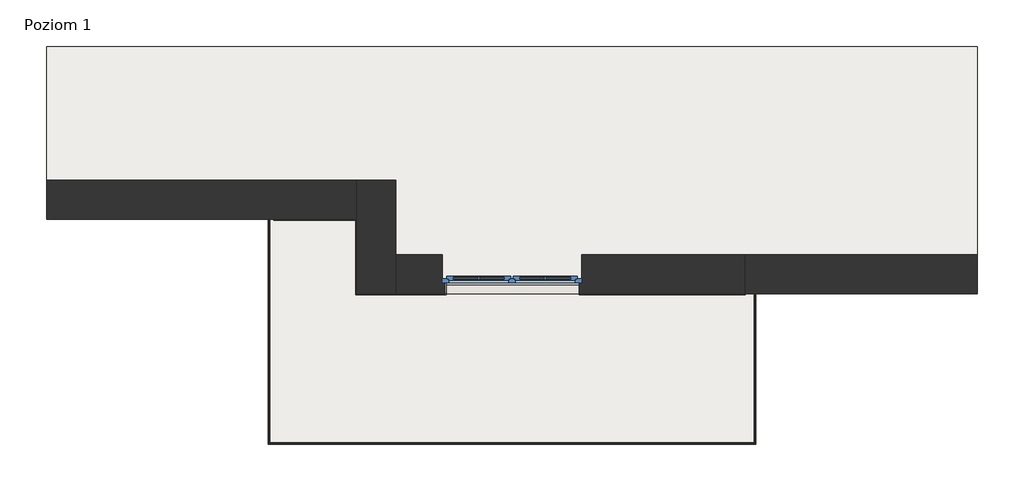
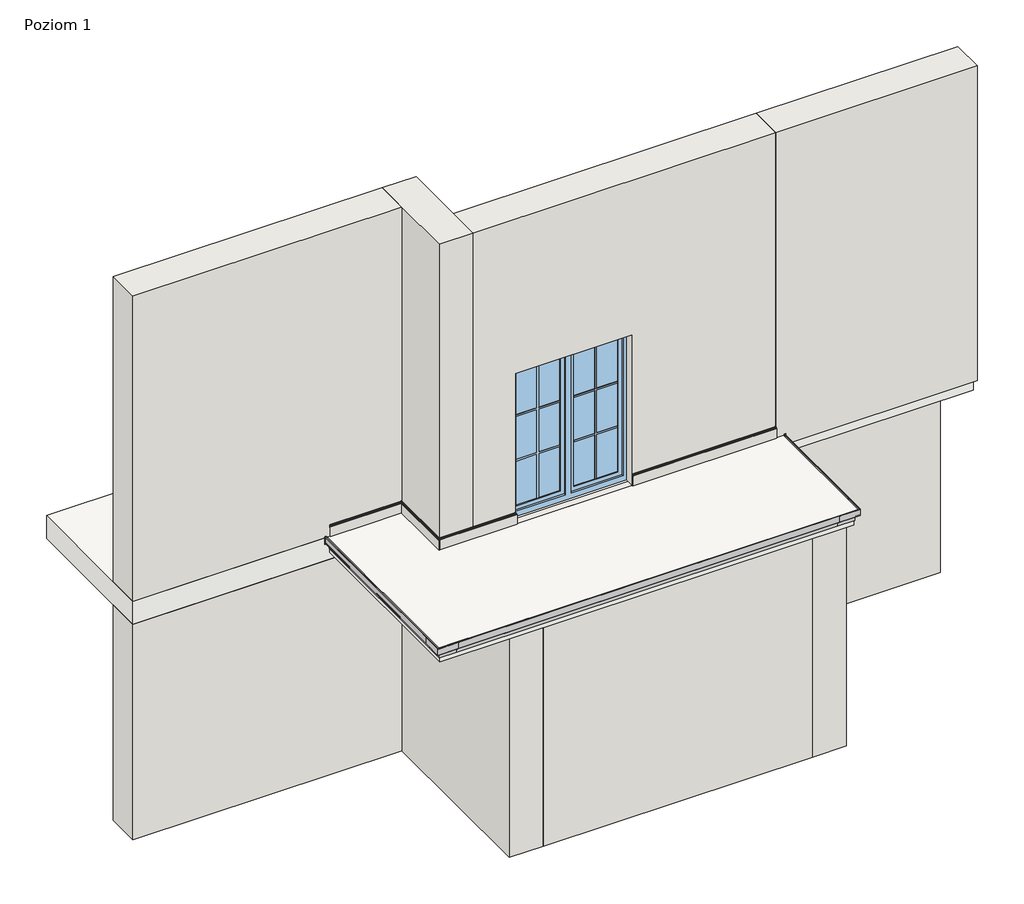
# One storey, part 1 of 4: 15 walls, 9 proxies, 3 slabs, 1 window.
"""IFC4 building model written with IfcOpenShell, lengths in millimetres."""

from ifc_helpers import new_model, si_unit, frame, origin, origin_with_axes, place, context, project, spatial, polyline, outline, extrude, faceted_brep, transform, mapped, element, save
from components import generic_models_5630e756, generic_models_7e4038cf, c_led_c_led_2365758f, c_led_c_led_99613e41, c_led_c_led_c4f84eb2, c_led_c_led_8937523a, w63_5dd79a54, w63_d7f169f1, w63_e9272406, window_150x200_12b14935

model = new_model("IFC4")

# Units and contexts
model_context = context("Model", 3, world=origin())
ifc_project = project(units=[si_unit("LENGTHUNIT", "METRE", prefix="MILLI")], contexts=[model_context])

# Site, building, storey
site = spatial("IfcSite", under=ifc_project)
building = spatial("IfcBuilding", under=site)
storey = spatial("IfcBuildingStorey", under=building, Name="Poziom 1", Elevation=0.0)

# Proxies
placement = place(None, origin())
generic_models_shape = generic_models_5630e756(model_context)
element("IfcBuildingElementProxy", 1, Name="Odbojniki - OPW63 : Odbojniki - OPW63", ObjectType="Odbojniki - OPW63 : Odbojniki - OPW63", at=placement, inside=storey, context=model_context, shape_type="MappedRepresentation", body=[
    mapped(generic_models_shape, transform((-100537.9865026, 45260.2483344, -55.0), x_axis=(0.0, -1.0, 0.0), y_axis=(1.0, 0.0, 0.0), z_axis=(0.0, 0.0, 1.0))),
])
generic_models_2_shape = generic_models_7e4038cf(model_context)
element("IfcBuildingElementProxy", 2, Name="Odbojniki - OPW63 : Odbojniki - OPW63", ObjectType="Odbojniki - OPW63 : Odbojniki - OPW63", at=placement, inside=storey, context=model_context, shape_type="MappedRepresentation", body=[
    mapped(generic_models_2_shape, transform((-105770.4865026, 46060.2483344, -55.0), x_axis=(0.0, -1.0, 0.0), y_axis=(1.0, 0.0, 0.0), z_axis=(0.0, 0.0, 1.0))),
])
c_led_c_led_shape = c_led_c_led_2365758f(model_context)
element("IfcBuildingElementProxy", 3, Name="C LED : C LED", ObjectType="C LED : C LED", at=placement, inside=storey, context=model_context, shape_type="MappedRepresentation", body=[
    mapped(c_led_c_led_shape, transform((-105717.2365026, 46063.2483344, 150.0), x_axis=(1.0, 0.0, 0.0), y_axis=(0.0, 0.0, 1.0), z_axis=(0.0, -1.0, 0.0))),
])
c_led_c_led_2_shape = c_led_c_led_99613e41(model_context)
element("IfcBuildingElementProxy", 4, Name="C LED : C LED", ObjectType="C LED : C LED", at=placement, inside=storey, context=model_context, shape_type="MappedRepresentation", body=[
    mapped(c_led_c_led_2_shape, transform((-104824.2365026, 46063.2483344, 150.0), x_axis=(0.0, -1.0, 0.0), y_axis=(0.0, 0.0, 1.0), z_axis=(-1.0, 0.0, 0.0))),
])
c_led_c_led_3_shape = c_led_c_led_c4f84eb2(model_context)
element("IfcBuildingElementProxy", 5, Name="C LED : C LED", ObjectType="C LED : C LED", at=placement, inside=storey, context=model_context, shape_type="MappedRepresentation", body=[
    mapped(c_led_c_led_3_shape, transform((-104824.2365018, 45263.2483344, 149.9999994), x_axis=(1.0, 0.0, 0.0), y_axis=(0.0, 0.0, 1.0), z_axis=(0.0, -1.0, 0.0))),
])
c_led_c_led_4_shape = c_led_c_led_8937523a(model_context)
element("IfcBuildingElementProxy", 6, Name="C LED : C LED", ObjectType="C LED : C LED", at=placement, inside=storey, context=model_context, shape_type="MappedRepresentation", body=[
    mapped(c_led_c_led_4_shape, transform((-102434.2365026, 45263.2483344, 150.0), x_axis=(1.0, 0.0, 0.0), y_axis=(0.0, 0.0, 1.0), z_axis=(0.0, -1.0, 0.0))),
])
w63_shape = w63_5dd79a54(model_context)
element("IfcBuildingElementProxy", 7, Name="W63 Profil okapowy prosty : W63", ObjectType="W63 Profil okapowy prosty : W63", at=placement, inside=storey, context=model_context, shape_type="MappedRepresentation", body=[
    mapped(w63_shape, transform((-105717.2365026, 43700.2483344, -55.0), x_axis=(1.0, 0.0, 0.0), y_axis=(0.0, 1.0, 0.0), z_axis=(0.0, 0.0, 1.0))),
])
w63_2_shape = w63_d7f169f1(model_context)
element("IfcBuildingElementProxy", 8, Name="W63 Profil okapowy prosty : W63", ObjectType="W63 Profil okapowy prosty : W63", at=placement, inside=storey, context=model_context, shape_type="MappedRepresentation", body=[
    mapped(w63_2_shape, transform((-105717.2365026, 46063.2483344, -55.0), x_axis=(0.0, -1.0, 0.0), y_axis=(1.0, 0.0, 0.0), z_axis=(0.0, 0.0, 1.0))),
])
w63_3_shape = w63_e9272406(model_context)
element("IfcBuildingElementProxy", 9, Name="W63 Profil okapowy prosty : W63", ObjectType="W63 Profil okapowy prosty : W63", at=placement, inside=storey, context=model_context, shape_type="MappedRepresentation", body=[
    mapped(w63_3_shape, transform((-100591.2365026, 45263.2483344, -55.0), x_axis=(0.0, -1.0, 0.0), y_axis=(1.0, 0.0, 0.0), z_axis=(0.0, 0.0, 1.0))),
])

# Slabs
element("IfcSlab", 10, ObjectType="Taras - wykończenie - posadzka z płytek grubowarstwowych - podkładka P1 - hydroizolacja", at=placement, inside=storey, context=model_context, shape_type="SweptSolid", body=[
    extrude(outline(polyline([(-105717.2365026, 43700.2483344), (-105717.2365026, 46063.2483344), (-104824.2365026, 46063.2483344), (-104824.2365026, 45285.2483344), (-100591.2365026, 45285.2483344), (-100591.2365026, 43700.2483344), (-105717.2365026, 43700.2483344)])), frame((0.0, 0.0, -215.0), z_axis=(0.0, 0.0, 1.0), x_axis=(1.0, 0.0, 0.0)), (0.0, 0.0, 1.0), 160.0),
])
element("IfcSlab", 11, ObjectType="Taras - wykończenie - posadzka z płytek grubowarstwowych", at=placement, inside=storey, context=model_context, shape_type="SweptSolid", body=[
    extrude(outline(polyline([(-105749.4365026, 43668.0483344), (-105749.4365026, 46063.2483344), (-104824.2365026, 46063.2483344), (-104824.2365026, 45263.2483344), (-100559.0365026, 45263.2483344), (-100559.0365026, 43668.0483344), (-105749.4365026, 43668.0483344)])), frame((0.0, 0.0, -55.0), z_axis=(0.0, 0.0, 1.0), x_axis=(1.0, 0.0, 0.0)), (0.0, 0.0, 1.0), 55.0),
])
element("IfcSlab", 12, ObjectType="Strop", at=placement, inside=storey, context=model_context, shape_type="Brep", body=[
    faceted_brep([(-98154.2365026, 45352.2483344, -300.0), (-104824.2365026, 45352.2483344, -300.0), (-104824.2365026, 46063.2483344, -300.0), (-108154.2365026, 46063.2483344, -300.0), (-108154.2365026, 46483.2483344, -300.0), (-108154.2365026, 47918.2483344, -300.0), (-98154.2365026, 47918.2483344, -300.0), (-98154.2365026, 46483.2483344, -300.0), (-98154.2365026, 46063.2483344, -300.0), (-98154.2365026, 45352.2483344, 0.0), (-98154.2365026, 45683.2483344, 0.0), (-98154.2365026, 47918.2483344, 0.0), (-108154.2365026, 47918.2483344, 0.0), (-108154.2365026, 46063.2483344, 0.0), (-104824.2365026, 46063.2483344, 0.0), (-104824.2365026, 45352.2483344, 0.0), (-104404.2365026, 45352.2483344, 0.0), (-103874.2365026, 45352.2483344, 0.0), (-102434.2365026, 45352.2483344, 0.0), (-100654.2365026, 45352.2483344, 0.0), (-98154.2365026, 45352.2483344, -125.0)], [[[0, 1, 2, 3, 4, 5, 6, 7, 8]], [[9, 10, 11, 12, 13, 14, 15, 16, 17, 18, 19]], [[1, 0, 20, 9, 19, 18, 17, 16, 15]], [[5, 4, 3, 13, 12]], [[6, 5, 12, 11]], [[0, 8, 7, 6, 11, 10, 9, 20]], [[2, 1, 15, 14]], [[3, 2, 14, 13]]]),
])

# Walls
element("IfcWall", 13, ObjectType="Porotherm P+W 25 + o15 + t", at=placement, inside=storey, context=model_context, shape_type="Brep", body=[
    faceted_brep([(-108154.2365026, 46063.2483344, -3125.0), (-104824.2365026, 46063.2483344, -3125.0), (-104404.2365026, 46063.2483344, -3125.0), (-104404.2365026, 46063.2483344, -300.0), (-104824.2365026, 46063.2483344, -300.0), (-108154.2365026, 46063.2483344, -300.0), (-104404.2365026, 46483.2483344, -3125.0), (-108154.2365026, 46483.2483344, -3125.0), (-108154.2365026, 46483.2483344, -300.0), (-104404.2365026, 46483.2483344, -300.0), (-104404.2365026, 46203.2483344, -3125.0), (-104404.2365026, 46203.2483344, -300.0)], [[[0, 1, 2, 3, 4, 5]], [[6, 7, 8, 9]], [[2, 1, 0, 7, 6, 10]], [[7, 0, 5, 8]], [[2, 10, 6, 9, 11, 3]], [[4, 3, 11, 9, 8, 5]]]),
])
element("IfcWall", 14, ObjectType="Porotherm P+W 25 + o15 + t", at=placement, inside=storey, context=model_context, shape_type="Brep", body=[
    faceted_brep([(-104824.2365026, 46063.2483344, -3125.0), (-104824.2365026, 43758.2483344, -3125.0), (-104824.2365026, 43758.2483344, -147.509132), (-104824.2365026, 46063.2483344, -147.509132), (-104404.2365026, 46063.2483344, -3125.0), (-104404.2365026, 46063.2483344, -147.509132), (-104404.2365026, 44178.2483344, -147.509132), (-104404.2365026, 43758.2483344, -147.509132), (-104404.2365026, 43758.2483344, -3125.0), (-104404.2365026, 44178.2483344, -3125.0), (-104614.2365026, 46063.2483344, -147.509132)], [[[0, 1, 2, 3]], [[4, 5, 6, 7, 8, 9]], [[1, 0, 4, 9, 8]], [[3, 2, 7, 6, 5, 10]], [[2, 1, 8, 7]], [[0, 3, 10, 5, 4]]]),
])
element("IfcWall", 15, ObjectType="Porotherm P+W 25 + o15 + t", at=placement, inside=storey, context=model_context, shape_type="SweptSolid", body=[
    extrude(outline(polyline([(-101069.2365026, 43758.2483344), (-104404.2365026, 43758.2483344), (-104404.2365026, 44178.2483344), (-101069.2365026, 44178.2483344), (-101069.2365026, 43758.2483344)])), frame((0.0, 0.0, -3125.0), z_axis=(0.0, 0.0, 1.0), x_axis=(1.0, 0.0, 0.0)), (0.0, 0.0, 1.0), 2977.490868),
])
element("IfcWall", 16, ObjectType="Porotherm P+W 25 + o15 + t", at=placement, inside=storey, context=model_context, shape_type="Brep", body=[
    faceted_brep([(-100649.2365026, 43758.2483344, -3125.0), (-100649.2365026, 46063.2483344, -3125.0), (-100649.2365026, 46483.2483344, -3125.0), (-100649.2365026, 46483.2483344, -300.0), (-100649.2365026, 46483.2483344, -147.509132), (-100649.2365026, 43758.2483344, -147.509132), (-101069.2365026, 43758.2483344, -3125.0), (-101069.2365026, 43758.2483344, -147.509132), (-101069.2365026, 44178.2483344, -147.509132), (-101069.2365026, 46483.2483344, -147.509132), (-101069.2365026, 46483.2483344, -300.0), (-101069.2365026, 46483.2483344, -3125.0), (-101069.2365026, 46203.2483344, -3125.0), (-101069.2365026, 44178.2483344, -3125.0)], [[[0, 1, 2, 3, 4, 5]], [[6, 7, 8, 9, 10, 11, 12, 13]], [[2, 1, 0, 6, 13, 12, 11]], [[5, 4, 9, 8, 7]], [[0, 5, 7, 6]], [[4, 3, 2, 11, 10, 9]]]),
])
element("IfcWall", 17, ObjectType="Porotherm P+W 25 + o15 + t", at=placement, inside=storey, context=model_context, shape_type="SweptSolid", body=[
    extrude(outline(polyline([(-98154.2365026, 46063.2483344), (-100649.2365026, 46063.2483344), (-100649.2365026, 46483.2483344), (-98154.2365026, 46483.2483344), (-98154.2365026, 46063.2483344)])), frame((0.0, 0.0, -3125.0), z_axis=(0.0, 0.0, 1.0), x_axis=(1.0, 0.0, 0.0)), (0.0, 0.0, 1.0), 2825.0),
])
element("IfcWall", 18, ObjectType="Porotherm P+W 25(wieniec 45) + t", at=placement, inside=storey, context=model_context, shape_type="SweptSolid", body=[
    extrude(outline(polyline([(-101069.2365026, 46203.2483344), (-104404.2365026, 46203.2483344), (-104404.2365026, 46483.2483344), (-101069.2365026, 46483.2483344), (-101069.2365026, 46203.2483344)])), frame((0.0, 0.0, -3125.0), z_axis=(0.0, 0.0, 1.0), x_axis=(1.0, 0.0, 0.0)), (0.0, 0.0, 1.0), 2825.0),
])
element("IfcWall", 19, ObjectType="Porotherm P+W 25 + o15 + t", at=placement, inside=storey, context=model_context, shape_type="Brep", body=[
    faceted_brep([(-104404.2365026, 45263.2483344, -125.0), (-100654.2365026, 45263.2483344, -125.0), (-100654.2365026, 45263.2483344, 4000.0), (-104404.2365026, 45263.2483344, 4000.0), (-103874.2365026, 45263.2483344, 1970.0), (-102434.2365026, 45263.2483344, 1970.0), (-102434.2365026, 45263.2483344, 0.0), (-103874.2365026, 45263.2483344, 0.0), (-104404.2365026, 45683.2483344, 4000.0), (-100654.2365026, 45683.2483344, 4000.0), (-100654.2365026, 45683.2483344, 0.0), (-102404.2365026, 45683.2483344, 0.0), (-102404.2365026, 45683.2483344, 2000.0), (-103904.2365026, 45683.2483344, 2000.0), (-103904.2365026, 45683.2483344, 0.0), (-104404.2365026, 45683.2483344, 0.0), (-104404.2365026, 45352.2483344, -125.0), (-100654.2365026, 45352.2483344, -125.0), (-100654.2365026, 45352.2483344, 0.0), (-103904.2365026, 45383.2483344, 2000.0), (-102404.2365026, 45383.2483344, 2000.0), (-102434.2365026, 45352.2483344, 0.0), (-103874.2365026, 45352.2483344, 0.0), (-102404.2365026, 45383.2483344, 0.0), (-102434.2365026, 45383.2483344, 0.0), (-102434.2365026, 45383.2483344, 1970.0), (-103874.2365026, 45383.2483344, 1970.0), (-103874.2365026, 45383.2483344, 0.0), (-103904.2365026, 45383.2483344, 0.0), (-104404.2365026, 45352.2483344, 0.0)], [[[0, 1, 2, 3], [4, 5, 6, 7]], [[8, 9, 10, 11, 12, 13, 14, 15]], [[1, 0, 16, 17]], [[2, 1, 17, 18, 10, 9]], [[3, 2, 9, 8]], [[19, 13, 12, 20]], [[7, 6, 21, 22]], [[19, 20, 23, 24, 25, 26, 27, 28]], [[20, 12, 11, 23]], [[13, 19, 28, 14]], [[4, 26, 25, 5]], [[5, 25, 24, 21, 6]], [[26, 4, 7, 22, 27]], [[18, 21, 24, 23, 11, 10]], [[22, 29, 15, 14, 28, 27]], [[21, 18, 17, 16, 29, 22]], [[0, 3, 8, 15, 29, 16]]]),
])
element("IfcWall", 20, ObjectType="Porotherm P+W 25 + o15 + t", at=placement, inside=storey, context=model_context, shape_type="SweptSolid", body=[
    extrude(outline(polyline([(45263.2483344, -125.0), (45263.2483344, 4000.0), (45683.2483344, 4000.0), (45683.2483344, 0.0), (45352.2483344, 0.0), (45352.2483344, -125.0), (45263.2483344, -125.0)])), frame((-100654.2365026, 0.0, 0.0), z_axis=(1.0, 0.0, 0.0), x_axis=(0.0, 1.0, 0.0)), (0.0, 0.0, 1.0), 2500.0),
])
element("IfcWall", 21, ObjectType="Porotherm P+W 25 + o15 + t", at=placement, inside=storey, context=model_context, shape_type="Brep", body=[
    faceted_brep([(-104404.2365026, 45263.2483344, 0.0), (-104404.2365026, 46483.2483344, 0.0), (-104404.2365026, 46483.2483344, 4000.0), (-104404.2365026, 45263.2483344, 4000.0), (-104824.2365026, 45263.2483344, 0.0), (-104824.2365026, 45263.2483344, 4000.0), (-104824.2365026, 46063.2483344, 4000.0), (-104824.2365026, 46483.2483344, 4000.0), (-104824.2365026, 46483.2483344, 0.0), (-104824.2365026, 46063.2483344, 0.0)], [[[0, 1, 2, 3]], [[4, 5, 6, 7, 8, 9]], [[1, 0, 4, 9, 8]], [[3, 2, 7, 6, 5]], [[2, 1, 8, 7]], [[0, 3, 5, 4]]]),
])
element("IfcWall", 22, ObjectType="Porotherm P+W 25 + o15 + t", at=placement, inside=storey, context=model_context, shape_type="SweptSolid", body=[
    extrude(outline(polyline([(-108154.2365026, 46483.2483344), (-104824.2365026, 46483.2483344), (-104824.2365026, 46063.2483344), (-108154.2365026, 46063.2483344), (-108154.2365026, 46483.2483344)])), origin_with_axes(), (0.0, 0.0, 1.0), 4000.0),
])
element("IfcWall", 23, ObjectType="Płytki ceramiczne", at=placement, inside=storey, context=model_context, shape_type="Brep", body=[
    faceted_brep([(-105716.2365026, 46052.0483352, 0.0), (-104835.2302511, 46052.0483352, 0.0), (-104825.2302511, 46052.0483352, 0.0), (-104825.2302511, 46052.0483352, 130.0), (-104835.2302511, 46052.0483352, 130.0), (-105716.2365026, 46052.0483352, 130.0), (-105716.2365026, 46062.0483352, 0.0), (-105716.2365026, 46062.0483352, 130.0), (-104825.2302511, 46062.0483352, 130.0), (-104825.2302511, 46062.0483352, 0.0)], [[[0, 1, 2, 3, 4, 5]], [[6, 7, 8, 9]], [[2, 1, 0, 6, 9]], [[5, 4, 3, 8, 7]], [[0, 5, 7, 6]], [[3, 2, 9, 8]]]),
])
element("IfcWall", 24, ObjectType="Płytki ceramiczne", at=placement, inside=storey, context=model_context, shape_type="Brep", body=[
    faceted_brep([(-104835.2302511, 46052.0483352, 0.0), (-104835.2302511, 45252.0483344, 0.0), (-104835.2302511, 45252.0483344, 130.0), (-104835.2302511, 46052.0483352, 130.0), (-104825.2302511, 46052.0483352, 0.0), (-104825.2302511, 46052.0483352, 130.0), (-104825.2302511, 45262.0483344, 130.0), (-104825.2302511, 45252.0483344, 130.0), (-104825.2302511, 45252.0483344, 0.0), (-104825.2302511, 45262.0483344, 0.0)], [[[0, 1, 2, 3]], [[4, 5, 6, 7, 8, 9]], [[1, 0, 4, 9, 8]], [[3, 2, 7, 6, 5]], [[0, 3, 5, 4]], [[2, 1, 8, 7]]]),
])
element("IfcWall", 25, ObjectType="Płytki ceramiczne", at=placement, inside=storey, context=model_context, shape_type="Brep", body=[
    faceted_brep([(-104825.2302511, 45252.0483344, 0.0), (-103863.0365026, 45252.0483344, 0.0), (-103863.0365026, 45252.0483344, 130.0), (-104825.2302511, 45252.0483344, 130.0), (-104825.2302511, 45262.0483344, 0.0), (-104825.2302511, 45262.0483344, 130.0), (-103873.0365026, 45262.0483344, 130.0), (-103863.0365026, 45262.0483344, 130.0), (-103863.0365026, 45262.0483344, 0.0), (-103873.0365026, 45262.0483344, 0.0)], [[[0, 1, 2, 3]], [[4, 5, 6, 7, 8, 9]], [[1, 0, 4, 9, 8]], [[3, 2, 7, 6, 5]], [[2, 1, 8, 7]], [[0, 3, 5, 4]]]),
])
element("IfcWall", 26, ObjectType="Płytki ceramiczne", at=placement, inside=storey, context=model_context, shape_type="SweptSolid", body=[
    extrude(outline(polyline([(-103863.0365026, 45383.2483344), (-103863.0365026, 45262.0483344), (-103873.0365026, 45262.0483344), (-103873.0365026, 45383.2483344), (-103863.0365026, 45383.2483344)])), origin_with_axes(), (0.0, 0.0, 1.0), 130.0),
])
element("IfcWall", 27, ObjectType="Płytki ceramiczne", at=placement, inside=storey, context=model_context, shape_type="SweptSolid", body=[
    extrude(outline(polyline([(-100649.2365026, 45252.0483344), (-102434.2365026, 45252.0483344), (-102434.2365026, 45262.0483344), (-100649.2365026, 45262.0483344), (-100649.2365026, 45252.0483344)])), origin_with_axes(), (0.0, 0.0, 1.0), 130.0),
])

# Window
window_150x200_shape = window_150x200_12b14935(model_context)
element("IfcWindow", 28, ObjectType="OKNO_2X_W_SZ : 150x200", at=placement, inside=storey, context=model_context, shape_type="MappedRepresentation", body=[
    mapped(window_150x200_shape, transform((-103154.2365026, 45473.2483344, -850.0), x_axis=(-1.0, 0.0, 0.0), y_axis=(0.0, -1.0, 0.0), z_axis=(0.0, 0.0, 1.0))),
])

save(model, "model.ifc")
